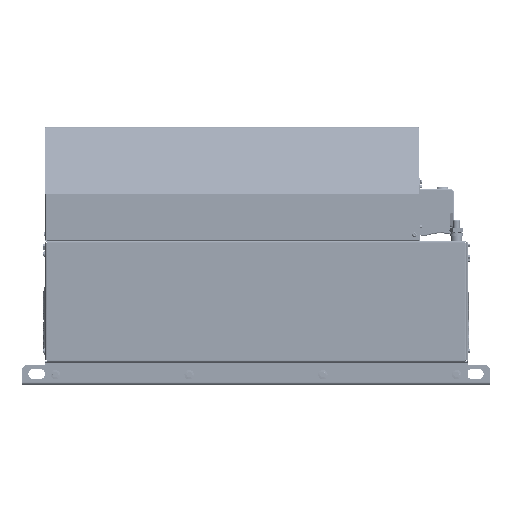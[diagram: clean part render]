
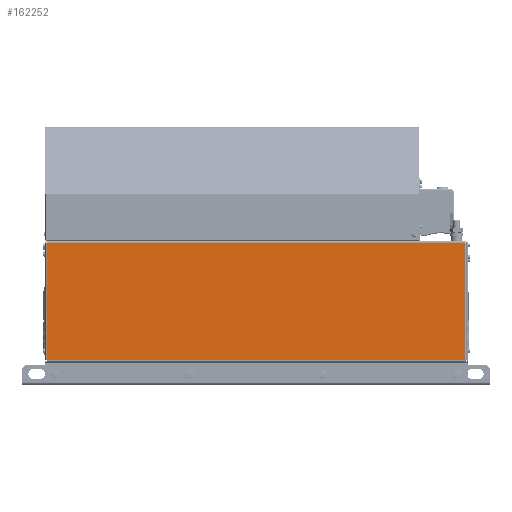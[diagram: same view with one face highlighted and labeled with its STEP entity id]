
A CAD part, left-side view. The second image highlights one B-rep face of the part: STEP entity #162252.
In plain terms, the highlighted planar face has unit normal (-1, 0, 0).
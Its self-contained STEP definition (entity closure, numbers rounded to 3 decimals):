
#7026=PLANE('',#172490);
#11781=FACE_OUTER_BOUND('',#21428,.T.);
#21428=EDGE_LOOP('',(#106753,#106754,#106755,#106756));
#41075=LINE('',#260803,#52502);
#41239=LINE('',#261274,#52666);
#41296=LINE('',#261673,#52723);
#41297=LINE('',#261674,#52724);
#52502=VECTOR('',#190840,10.);
#52666=VECTOR('',#191216,10.);
#52723=VECTOR('',#191375,10.);
#52724=VECTOR('',#191376,10.);
#64604=VERTEX_POINT('',#260796);
#64607=VERTEX_POINT('',#260801);
#64780=VERTEX_POINT('',#261258);
#64853=VERTEX_POINT('',#261672);
#80187=EDGE_CURVE('',#64604,#64607,#41075,.T.);
#80412=EDGE_CURVE('',#64607,#64780,#41239,.T.);
#80517=EDGE_CURVE('',#64604,#64853,#41296,.T.);
#80518=EDGE_CURVE('',#64853,#64780,#41297,.T.);
#106753=ORIENTED_EDGE('',*,*,#80517,.F.);
#106754=ORIENTED_EDGE('',*,*,#80187,.T.);
#106755=ORIENTED_EDGE('',*,*,#80412,.T.);
#106756=ORIENTED_EDGE('',*,*,#80518,.F.);
#162252=ADVANCED_FACE('',(#11781),#7026,.F.);
#172490=AXIS2_PLACEMENT_3D('',#261671,#191373,#191374);
#190840=DIRECTION('',(0.,1.,0.));
#191216=DIRECTION('',(0.,0.,-1.));
#191373=DIRECTION('center_axis',(1.,0.,0.));
#191374=DIRECTION('ref_axis',(0.,0.,
-1.));
#191375=DIRECTION('',(0.,0.,-1.));
#191376=DIRECTION('',(0.,1.,0.));
#260796=CARTESIAN_POINT('',(-225.,-312.7,212.7));
#260801=CARTESIAN_POINT('',(-225.,312.7,212.7));
#260803=CARTESIAN_POINT('',(-225.,315.,212.7));
#261258=CARTESIAN_POINT('',(-225.,312.7,36.353));
#261274=CARTESIAN_POINT('',(-225.,312.7,116.05));
#261671=CARTESIAN_POINT('Origin',(-225.,-315.,35.4));
#261672=CARTESIAN_POINT('',(-225.,-312.7,36.353));
#261673=CARTESIAN_POINT('',(-225.,-312.7,196.71));
#261674=CARTESIAN_POINT('',(-225.,-315.,36.353));
